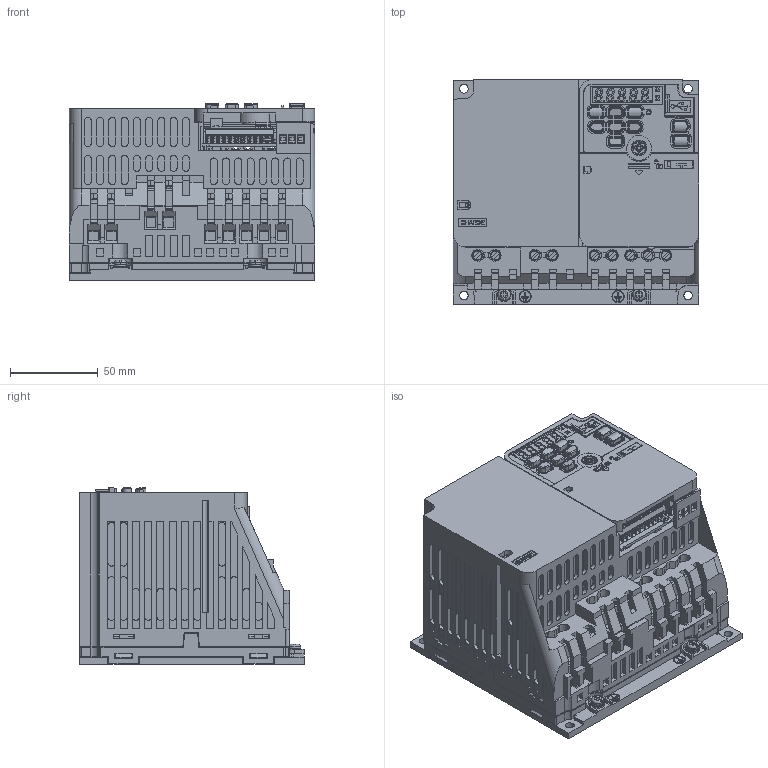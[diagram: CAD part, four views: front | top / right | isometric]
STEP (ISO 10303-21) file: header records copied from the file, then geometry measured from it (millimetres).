
FILE_DESCRIPTION((''),'2;1');
FILE_NAME('CIPR-GA50XB012AJXX_ASM','2020-01-20T',('vsetu'),('YASKAWA ELECTRIC CORCORATION'),'PRO/ENGINEER BY PARAMETRIC TECHNOLOGY CORPORATION, 2015110','PRO/ENGINEER BY PARAMETRIC TECHNOLOGY CORPORATION, 2015110','');
FILE_SCHEMA(('AUTOMOTIVE_DESIGN { 1 0 10303 214 1 1 1 1 }'));
Products named in the file (9): CIPR-GA50XB012AJXX_BODY_1; CIPR-GA50_ALL_TB; CIPR-GA50_KEYPAD; CIPR-GA50_USB_COVER; CIPR-GA50_COMMON_1; CIPR-GA50_COMMON_2; CIPR-GA50_FP; CIPR-GA50_SCREW_GND_M4X8; CIPR-GA50XB012AJXX_ASM
Assembly tree (9 placements, depth 2):
  CIPR-GA50XB012AJXX_ASM
    CIPR-GA50XB012AJXX_BODY_1
    CIPR-GA50_ALL_TB
    CIPR-GA50_KEYPAD
    CIPR-GA50_USB_COVER
    CIPR-GA50_COMMON_1
    CIPR-GA50_COMMON_2
    CIPR-GA50_FP
    CIPR-GA50_SCREW_GND_M4X8  x2
Bounding box: 140 x 128 x 100.75 mm (x, y, z)
Volume: 1263418 mm3; surface area: 239114.2 mm2
Topology: 10 solids, 11 shells, 6578 faces, 17479 edges, 11428 vertices
Faces by surface type: plane 5319, cylinder 1146, torus 44, bspline 34, cone 27, sphere 8
Entity records: 251986 total; most frequent: CARTESIAN_POINT 39033, ORIENTED_EDGE 34750, DIRECTION 32588, EDGE_CURVE 17375, VECTOR 14550, LINE 14550, VERTEX_POINT 11366, AXIS2_PLACEMENT_3D 9019
